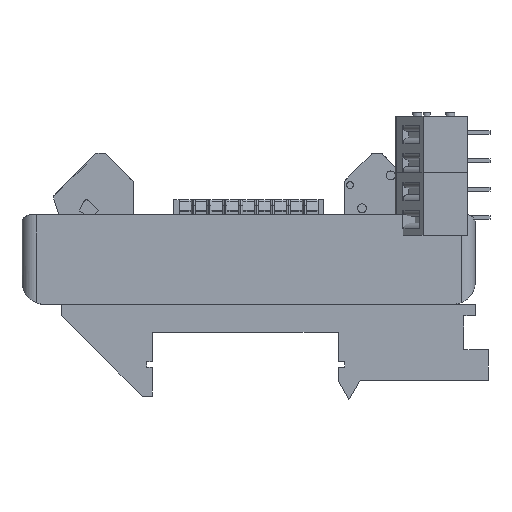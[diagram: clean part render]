
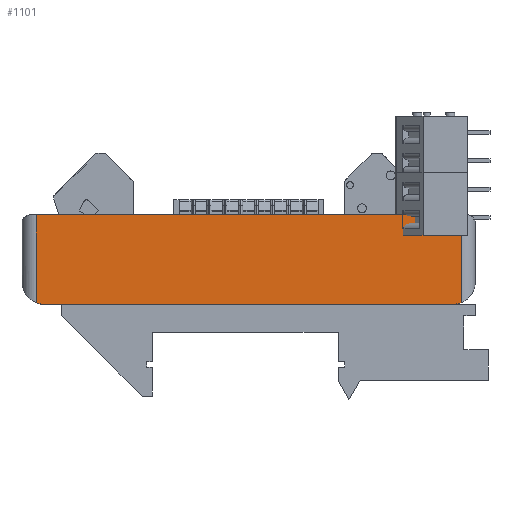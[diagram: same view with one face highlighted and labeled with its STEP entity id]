
A CAD part, left-side view. The second image highlights one B-rep face of the part: STEP entity #1101.
In plain terms, the highlighted planar face has unit normal (-1, 0, 0) as drawn and (1, 0, 0) by its records, which use the part's own axes.
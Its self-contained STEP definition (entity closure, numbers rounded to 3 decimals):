
#1101 = ADVANCED_FACE( '', ( #2624 ), #2625, .F. );
#2624 = FACE_OUTER_BOUND( '', #5177, .T. );
#2625 = PLANE( '', #5178 );
#5177 = EDGE_LOOP( '', ( #9278, #9279, #9280, #9281, #9282, #9283 ) );
#5178 = AXIS2_PLACEMENT_3D( '', #9284, #9285, #9286 );
#9278 = ORIENTED_EDGE( '', *, *, #13852, .T. );
#9279 = ORIENTED_EDGE( '', *, *, #13853, .T. );
#9280 = ORIENTED_EDGE( '', *, *, #13854, .T. );
#9281 = ORIENTED_EDGE( '', *, *, #12909, .T. );
#9282 = ORIENTED_EDGE( '', *, *, #13855, .T. );
#9283 = ORIENTED_EDGE( '', *, *, #13614, .T. );
#9284 = CARTESIAN_POINT( '', ( 24.05, 0., 0. ) );
#9285 = DIRECTION( '', ( -1., 0., 0. ) );
#9286 = DIRECTION( '', ( 0., 0., 1. ) );
#12909 = EDGE_CURVE( '', #15206, #15207, #15208, .F. );
#13614 = EDGE_CURVE( '', #16376, #16374, #16377, .T. );
#13852 = EDGE_CURVE( '', #16374, #16739, #16740, .T. );
#13853 = EDGE_CURVE( '', #16739, #16741, #16742, .F. );
#13854 = EDGE_CURVE( '', #16741, #15206, #16743, .T. );
#13855 = EDGE_CURVE( '', #15207, #16376, #16744, .T. );
#15206 = VERTEX_POINT( '', #18581 );
#15207 = VERTEX_POINT( '', #18582 );
#15208 = CIRCLE( '', #18583, 4. );
#16374 = VERTEX_POINT( '', #20373 );
#16376 = VERTEX_POINT( '', #20375 );
#16377 = LINE( '', #20376, #20377 );
#16739 = VERTEX_POINT( '', #20972 );
#16740 = LINE( '', #20973, #20974 );
#16741 = VERTEX_POINT( '', #20975 );
#16742 = CIRCLE( '', #20976, 4. );
#16743 = LINE( '', #20977, #20978 );
#16744 = LINE( '', #20979, #20980 );
#18581 = CARTESIAN_POINT( '', ( 24.05, 74.6, -12.23 ) );
#18582 = CARTESIAN_POINT( '', ( 24.05, 76.1, -11.938 ) );
#18583 = AXIS2_PLACEMENT_3D( '', #23271, #23272, #23273 );
#20373 = CARTESIAN_POINT( '', ( 24.05, 1.1, 3.57 ) );
#20375 = CARTESIAN_POINT( '', ( 24.05, 76.1, 3.57 ) );
#20376 = CARTESIAN_POINT( '', ( 24.05, 1.9, 3.57 ) );
#20377 = VECTOR( '', #24076, 1000. );
#20972 = CARTESIAN_POINT( '', ( 24.05, 1.1, -11.938 ) );
#20973 = CARTESIAN_POINT( '', ( 24.05, 1.1, 0. ) );
#20974 = VECTOR( '', #24340, 1000. );
#20975 = CARTESIAN_POINT( '', ( 24.05, 2.6, -12.23 ) );
#20976 = AXIS2_PLACEMENT_3D( '', #24341, #24342, #24343 );
#20977 = CARTESIAN_POINT( '', ( 24.05, -1.4, -12.23 ) );
#20978 = VECTOR( '', #24344, 1000. );
#20979 = CARTESIAN_POINT( '', ( 24.05, 76.1, 0. ) );
#20980 = VECTOR( '', #24345, 1000. );
#23271 = CARTESIAN_POINT( '', ( 24.05, 74.6, -8.23 ) );
#23272 = DIRECTION( '', ( -1., 0., 0. ) );
#23273 = DIRECTION( '', ( 0., 0., 1. ) );
#24076 = DIRECTION( '', ( 0., -1., 0. ) );
#24340 = DIRECTION( '', ( 0., 0., -1. ) );
#24341 = CARTESIAN_POINT( '', ( 24.05, 2.6, -8.23 ) );
#24342 = DIRECTION( '', ( -1., 0., 0. ) );
#24343 = DIRECTION( '', ( 0., 0., 1. ) );
#24344 = DIRECTION( '', ( 0., 1., 0. ) );
#24345 = DIRECTION( '', ( 0., 0., 1. ) );
